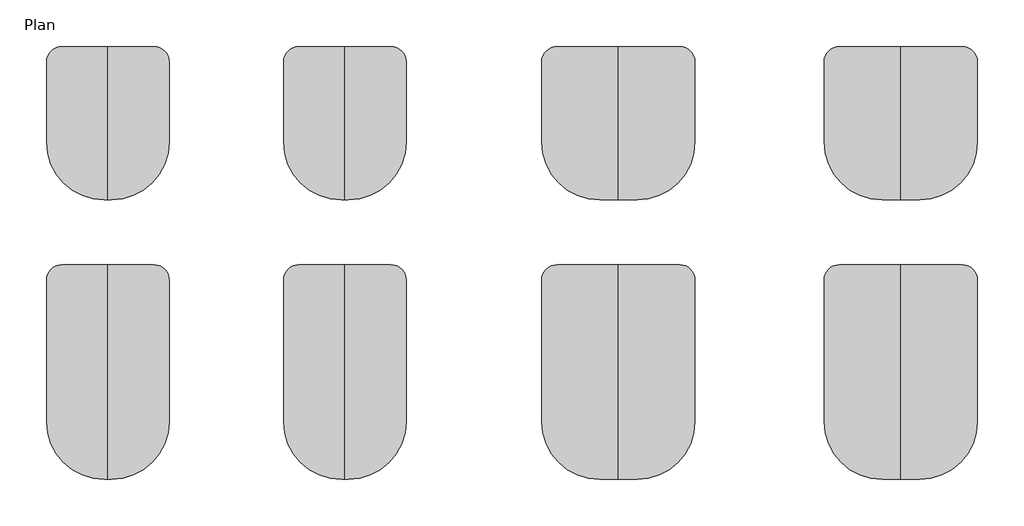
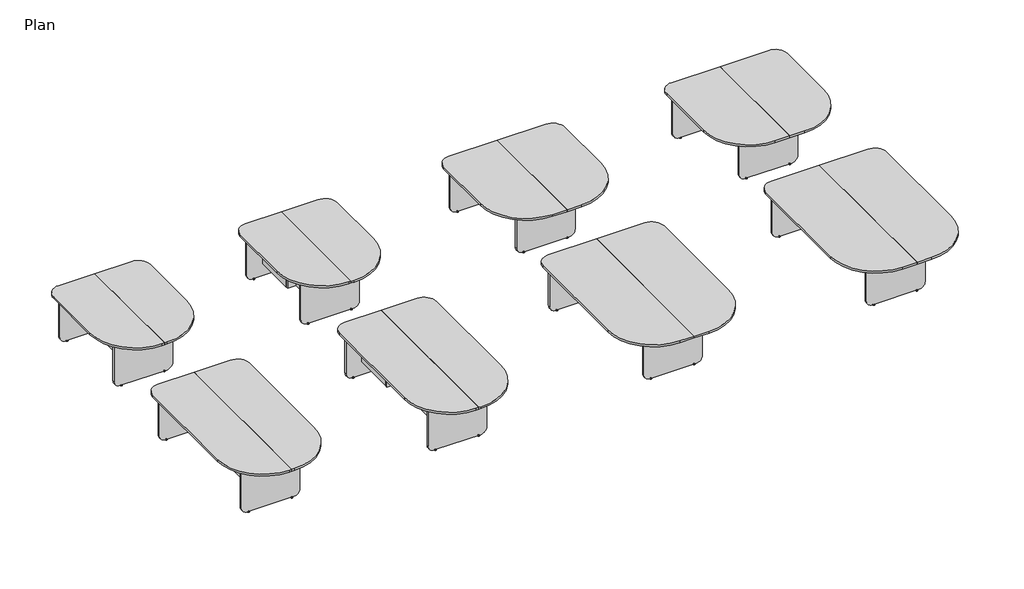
# One storey: 8 furniture elements.
"""IFC4 building model written with IfcOpenShell, lengths in millimetres."""

from ifc_helpers import new_model, si_unit, origin, place, context, project, spatial, transform, mapped, element, save
from components import furniture_1c62df15, furniture_77bb2e38, furniture_20b06302, furniture_7cc7d4da, furniture_c58f75bd, furniture_79b6fda6, furniture_2c49330a, furniture_0e6fd3ea

model = new_model("IFC4")

# Units and contexts
model_context = context("Model", 3, world=origin())
ifc_project = project(units=[si_unit("LENGTHUNIT", "METRE", prefix="MILLI")], contexts=[model_context])

# Site, building, storey
site = spatial("IfcSite", under=ifc_project)
building = spatial("IfcBuilding", under=site)
storey = spatial("IfcBuildingStorey", under=building, Name="Plan", Elevation=0.0)

# Furniture
placement = place(None, origin())
furniture_shape = furniture_1c62df15(model_context)
element("IfcFurniture", 1, ObjectType="Nova Solutions - Collaboration Table-D-Top : 4 person 48\"", at=placement, inside=storey, context=model_context, shape_type="MappedRepresentation", body=[
    mapped(furniture_shape, transform((-8637.5975208, 3670.2552562, 0.0), x_axis=(1.0, 0.0, 0.0), y_axis=(0.0, 1.0, 0.0), z_axis=(0.0, 0.0, 1.0))),
])
furniture_2_shape = furniture_77bb2e38(model_context)
element("IfcFurniture", 2, ObjectType="Nova Solutions - Collaboration Table-D-Top : 4 person 48\" w/ Rack Cab", at=placement, inside=storey, context=model_context, shape_type="MappedRepresentation", body=[
    mapped(furniture_2_shape, transform((-6281.4277907, 3670.2552562, 0.0), x_axis=(1.0, 0.0, 0.0), y_axis=(0.0, 1.0, 0.0), z_axis=(0.0, 0.0, 1.0))),
])
furniture_3_shape = furniture_20b06302(model_context)
element("IfcFurniture", 3, ObjectType="Nova Solutions - Collaboration Table-D-Top : 4 person 60\"", at=placement, inside=storey, context=model_context, shape_type="MappedRepresentation", body=[
    mapped(furniture_3_shape, transform((-3562.5275864, 3670.2552562, 0.0), x_axis=(1.0, 0.0, 0.0), y_axis=(0.0, 1.0, 0.0), z_axis=(0.0, 0.0, 1.0))),
])
furniture_4_shape = furniture_7cc7d4da(model_context)
element("IfcFurniture", 4, ObjectType="Nova Solutions - Collaboration Table-D-Top : 4 person 60\" w/ Rack Cab", at=placement, inside=storey, context=model_context, shape_type="MappedRepresentation", body=[
    mapped(furniture_4_shape, transform((-754.1631532, 3670.2552562, 0.0), x_axis=(1.0, 0.0, 0.0), y_axis=(0.0, 1.0, 0.0), z_axis=(0.0, 0.0, 1.0))),
])
furniture_5_shape = furniture_c58f75bd(model_context)
element("IfcFurniture", 5, ObjectType="Nova Solutions - Collaboration Table-D-Top : 6 person 48\"", at=placement, inside=storey, context=model_context, shape_type="MappedRepresentation", body=[
    mapped(furniture_5_shape, transform((-8637.5975208, 1195.8240071, 0.0), x_axis=(1.0, 0.0, 0.0), y_axis=(0.0, 1.0, 0.0), z_axis=(0.0, 0.0, 1.0))),
])
furniture_6_shape = furniture_79b6fda6(model_context)
element("IfcFurniture", 6, ObjectType="Nova Solutions - Collaboration Table-D-Top : 6 person 48\" w/ Rack Cab", at=placement, inside=storey, context=model_context, shape_type="MappedRepresentation", body=[
    mapped(furniture_6_shape, transform((-6281.4277907, 1195.8240071, 0.0), x_axis=(1.0, 0.0, 0.0), y_axis=(0.0, 1.0, 0.0), z_axis=(0.0, 0.0, 1.0))),
])
furniture_7_shape = furniture_2c49330a(model_context)
element("IfcFurniture", 7, ObjectType="Nova Solutions - Collaboration Table-D-Top : 6 person 60\"", at=placement, inside=storey, context=model_context, shape_type="MappedRepresentation", body=[
    mapped(furniture_7_shape, transform((-3562.5275864, 1195.8240071, 0.0), x_axis=(1.0, 0.0, 0.0), y_axis=(0.0, 1.0, 0.0), z_axis=(0.0, 0.0, 1.0))),
])
furniture_8_shape = furniture_0e6fd3ea(model_context)
element("IfcFurniture", 8, ObjectType="Nova Solutions - Collaboration Table-D-Top : 6 person 60\" w/ Rack Cab", at=placement, inside=storey, context=model_context, shape_type="MappedRepresentation", body=[
    mapped(furniture_8_shape, transform((-754.1631532, 1195.8240071, 0.0), x_axis=(1.0, 0.0, 0.0), y_axis=(0.0, 1.0, 0.0), z_axis=(0.0, 0.0, 1.0))),
])

save(model, "model.ifc")
